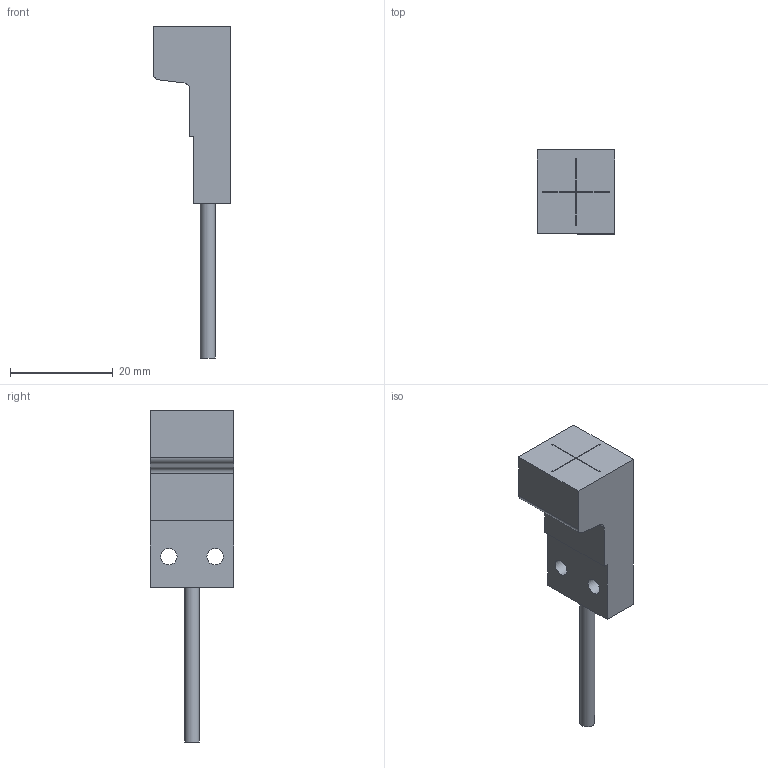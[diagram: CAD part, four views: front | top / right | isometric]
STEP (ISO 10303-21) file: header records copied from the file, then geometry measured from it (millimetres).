
FILE_DESCRIPTION(/* description */ (''),/* implementation_level */ '2;1');
FILE_NAME(/* name */ 'F:\HUAYIFENG\01)HUAYIFENG_宣传文件\01)HUAYIFENG_\X2\5BA34F2065874EF6\X0\_产品资料整合\03)产品3D文档\05)产品3D_接近系列_K12_2019\小方型接近传感器\PXH15.stp',/* time_stamp */ '2019-04-25T20:56:09+08:00',/* author */ ('fengjiarun'),/* organization */ (''),/* preprocessor_version */ 'ST-DEVELOPER v16.5',/* originating_system */ 'Autodesk Inventor 2017',/* authorisation */ '');
FILE_SCHEMA (('AUTOMOTIVE_DESIGN { 1 0 10303 214 3 1 1 }'));
Length unit declared in the file: millimetre
Products named in the file (1): PXH15
Bounding box: 15.15 x 16.3 x 64.5 mm (x, y, z)
Volume: 5664 mm3; surface area: 2667.4 mm2
Topology: 1 solids, 1 shells, 29 faces, 77 edges, 52 vertices
Faces by surface type: plane 24, cylinder 5
Full cylindrical faces by diameter (mm): 2.9 x1, 3.2 x2
Entity records: 896 total; most frequent: CARTESIAN_POINT 152, ORIENTED_EDGE 144, DIRECTION 142, EDGE_CURVE 72, LINE 62, VECTOR 62, VERTEX_POINT 50, AXIS2_PLACEMENT_3D 40
